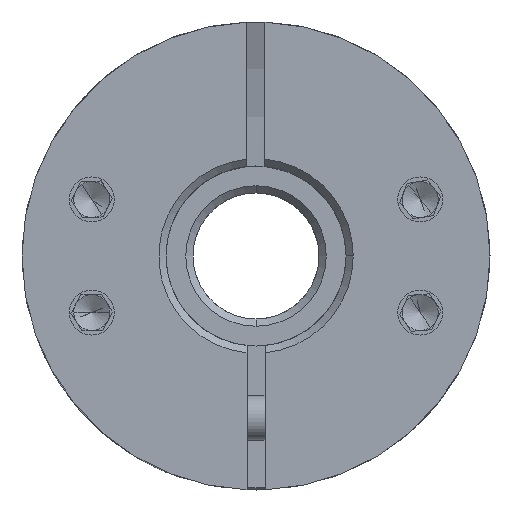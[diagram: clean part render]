
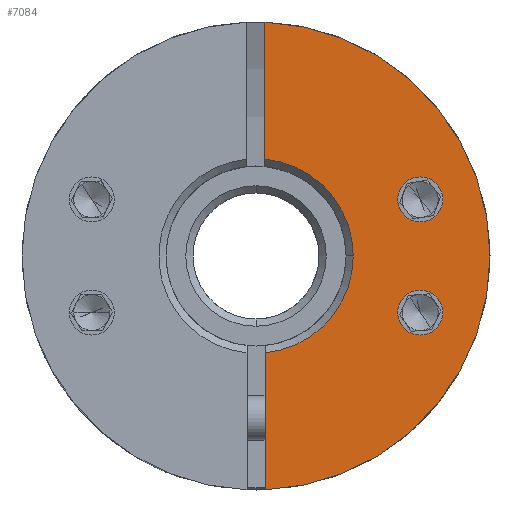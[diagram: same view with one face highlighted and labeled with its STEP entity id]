
A CAD part, front view. The second image highlights one B-rep face of the part: STEP entity #7084.
In plain terms, the highlighted planar face has unit normal (0, -1, 0).
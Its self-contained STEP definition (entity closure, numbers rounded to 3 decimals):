
#143 = EDGE_CURVE ( 'NONE', #6504, #8585, #10081, .T. ) ;
#707 = DIRECTION ( 'NONE',  ( 1., 0., 0. ) ) ;
#811 = DIRECTION ( 'NONE',  ( 1., 0., 0. ) ) ;
#875 = AXIS2_PLACEMENT_3D ( 'NONE', #8541, #1377, #18987 ) ;
#1377 = DIRECTION ( 'NONE',  ( 0., -1., 0. ) ) ;
#1706 = CARTESIAN_POINT ( 'NONE',  ( 14.755, -26.289, 0. ) ) ;
#1996 = AXIS2_PLACEMENT_3D ( 'NONE', #5632, #3756, #16419 ) ;
#2118 = AXIS2_PLACEMENT_3D ( 'NONE', #7367, #17794, #5431 ) ;
#2530 = DIRECTION ( 'NONE',  ( 1., 0., 0. ) ) ;
#2789 = AXIS2_PLACEMENT_3D ( 'NONE', #9132, #7188, #7341 ) ;
#2814 = DIRECTION ( 'NONE',  ( 0., 1., 0. ) ) ;
#3431 = EDGE_CURVE ( 'NONE', #6773, #10721, #14967, .T. ) ;
#3650 = CARTESIAN_POINT ( 'NONE',  ( 2.255, -26.289, 12.99 ) ) ;
#3756 = DIRECTION ( 'NONE',  ( 0., -1., 0. ) ) ;
#3834 = VERTEX_POINT ( 'NONE', #14118 ) ;
#4211 = ORIENTED_EDGE ( 'NONE', *, *, #15998, .T. ) ;
#4240 = CIRCLE ( 'NONE', #16831, 1.25 ) ;
#4783 = ORIENTED_EDGE ( 'NONE', *, *, #3431, .T. ) ;
#4870 = CARTESIAN_POINT ( 'NONE',  ( 2.255, -26.289, 5. ) ) ;
#4938 = VERTEX_POINT ( 'NONE', #1706 ) ;
#5003 = DIRECTION ( 'NONE',  ( 0., 0., -1. ) ) ;
#5016 = CIRCLE ( 'NONE', #2118, 1.25 ) ;
#5431 = DIRECTION ( 'NONE',  ( 1., 0., 0. ) ) ;
#5563 = PLANE ( 'NONE',  #2789 ) ;
#5632 = CARTESIAN_POINT ( 'NONE',  ( 1.755, -26.289, 0. ) ) ;
#5999 = ORIENTED_EDGE ( 'NONE', *, *, #143, .T. ) ;
#6453 = ORIENTED_EDGE ( 'NONE', *, *, #17266, .T. ) ;
#6504 = VERTEX_POINT ( 'NONE', #15750 ) ;
#6773 = VERTEX_POINT ( 'NONE', #20430 ) ;
#7084 = ADVANCED_FACE ( 'NONE', ( #21666, #18333, #13577 ), #5563, .T. ) ;
#7149 = LINE ( 'NONE', #14012, #16870 ) ;
#7188 = DIRECTION ( 'NONE',  ( 0., -1., 0. ) ) ;
#7341 = DIRECTION ( 'NONE',  ( 1., 0., 0. ) ) ;
#7367 = CARTESIAN_POINT ( 'NONE',  ( 10.88, -26.289, -3.142 ) ) ;
#8045 = DIRECTION ( 'NONE',  ( 1., 0., 0. ) ) ;
#8541 = CARTESIAN_POINT ( 'NONE',  ( 1.755, -26.289, 0. ) ) ;
#8585 = VERTEX_POINT ( 'NONE', #14259 ) ;
#8738 = DIRECTION ( 'NONE',  ( 0., 1., 0. ) ) ;
#9082 = VERTEX_POINT ( 'NONE', #11638 ) ;
#9132 = CARTESIAN_POINT ( 'NONE',  ( 1.755, -26.289, 0. ) ) ;
#9323 = EDGE_LOOP ( 'NONE', ( #4211, #18076 ) ) ;
#9663 = EDGE_CURVE ( 'NONE', #10721, #3834, #22945, .T. ) ;
#9886 = CARTESIAN_POINT ( 'NONE',  ( 2.255, -26.289, 5.377 ) ) ;
#10081 = CIRCLE ( 'NONE', #20850, 1.25 ) ;
#10525 = EDGE_LOOP ( 'NONE', ( #21913, #5999 ) ) ;
#10721 = VERTEX_POINT ( 'NONE', #17102 ) ;
#10791 = ORIENTED_EDGE ( 'NONE', *, *, #15652, .T. ) ;
#10800 = CIRCLE ( 'NONE', #20631, 1.25 ) ;
#11638 = CARTESIAN_POINT ( 'NONE',  ( 12.13, -26.289, 3.142 ) ) ;
#11724 = CIRCLE ( 'NONE', #875, 13. ) ;
#11756 = DIRECTION ( 'NONE',  ( 0., 1., 0. ) ) ;
#12348 = VECTOR ( 'NONE', #17555, 1000. ) ;
#12415 = EDGE_CURVE ( 'NONE', #13141, #16094, #7149, .T. ) ;
#12797 = CIRCLE ( 'NONE', #21945, 5.4 ) ;
#12948 = DIRECTION ( 'NONE',  ( 0., 1., 0. ) ) ;
#13141 = VERTEX_POINT ( 'NONE', #3650 ) ;
#13180 = CARTESIAN_POINT ( 'NONE',  ( 10.88, -26.289, 3.142 ) ) ;
#13306 = AXIS2_PLACEMENT_3D ( 'NONE', #22425, #11756, #811 ) ;
#13577 = FACE_BOUND ( 'NONE', #10525, .T. ) ;
#13693 = ORIENTED_EDGE ( 'NONE', *, *, #17719, .T. ) ;
#14012 = CARTESIAN_POINT ( 'NONE',  ( 2.255, -26.289, 5. ) ) ;
#14118 = CARTESIAN_POINT ( 'NONE',  ( 2.255, -26.289, -12.99 ) ) ;
#14259 = CARTESIAN_POINT ( 'NONE',  ( 9.63, -26.289, -3.142 ) ) ;
#14967 = CIRCLE ( 'NONE', #13306, 5.4 ) ;
#15652 = EDGE_CURVE ( 'NONE', #3834, #4938, #11724, .T. ) ;
#15750 = CARTESIAN_POINT ( 'NONE',  ( 12.13, -26.289, -3.142 ) ) ;
#15998 = EDGE_CURVE ( 'NONE', #22066, #9082, #4240, .T. ) ;
#16094 = VERTEX_POINT ( 'NONE', #9886 ) ;
#16419 = DIRECTION ( 'NONE',  ( 1., 0., 0. ) ) ;
#16831 = AXIS2_PLACEMENT_3D ( 'NONE', #13180, #12948, #2530 ) ;
#16870 = VECTOR ( 'NONE', #5003, 1000. ) ;
#17097 = EDGE_CURVE ( 'NONE', #8585, #6504, #5016, .T. ) ;
#17102 = CARTESIAN_POINT ( 'NONE',  ( 2.255, -26.289, -5.377 ) ) ;
#17266 = EDGE_CURVE ( 'NONE', #16094, #6773, #12797, .T. ) ;
#17532 = CARTESIAN_POINT ( 'NONE',  ( 10.88, -26.289, -3.142 ) ) ;
#17555 = DIRECTION ( 'NONE',  ( 0., 0., -1. ) ) ;
#17719 = EDGE_CURVE ( 'NONE', #4938, #13141, #18933, .T. ) ;
#17794 = DIRECTION ( 'NONE',  ( 0., 1., 0. ) ) ;
#17822 = EDGE_CURVE ( 'NONE', #9082, #22066, #10800, .T. ) ;
#17848 = ORIENTED_EDGE ( 'NONE', *, *, #9663, .T. ) ;
#18076 = ORIENTED_EDGE ( 'NONE', *, *, #17822, .T. ) ;
#18144 = EDGE_LOOP ( 'NONE', ( #20634, #6453, #4783, #17848, #10791, #13693 ) ) ;
#18333 = FACE_BOUND ( 'NONE', #9323, .T. ) ;
#18933 = CIRCLE ( 'NONE', #1996, 13. ) ;
#18987 = DIRECTION ( 'NONE',  ( 1., 0., 0. ) ) ;
#20171 = DIRECTION ( 'NONE',  ( 0., 1., 0. ) ) ;
#20430 = CARTESIAN_POINT ( 'NONE',  ( 7.155, -26.289, 0. ) ) ;
#20574 = CARTESIAN_POINT ( 'NONE',  ( 1.755, -26.289, 0. ) ) ;
#20631 = AXIS2_PLACEMENT_3D ( 'NONE', #22009, #20171, #707 ) ;
#20634 = ORIENTED_EDGE ( 'NONE', *, *, #12415, .T. ) ;
#20850 = AXIS2_PLACEMENT_3D ( 'NONE', #17532, #8738, #20957 ) ;
#20957 = DIRECTION ( 'NONE',  ( 1., 0., 0. ) ) ;
#21666 = FACE_OUTER_BOUND ( 'NONE', #18144, .T. ) ;
#21913 = ORIENTED_EDGE ( 'NONE', *, *, #17097, .T. ) ;
#21945 = AXIS2_PLACEMENT_3D ( 'NONE', #20574, #2814, #8045 ) ;
#22009 = CARTESIAN_POINT ( 'NONE',  ( 10.88, -26.289, 3.142 ) ) ;
#22066 = VERTEX_POINT ( 'NONE', #23044 ) ;
#22425 = CARTESIAN_POINT ( 'NONE',  ( 1.755, -26.289, 0. ) ) ;
#22945 = LINE ( 'NONE', #4870, #12348 ) ;
#23044 = CARTESIAN_POINT ( 'NONE',  ( 9.63, -26.289, 3.142 ) ) ;
